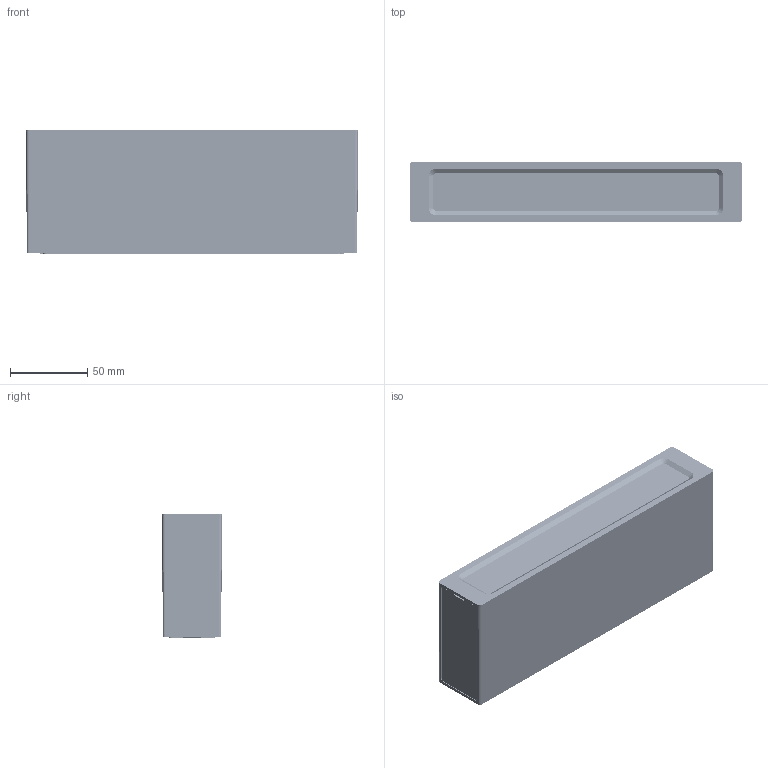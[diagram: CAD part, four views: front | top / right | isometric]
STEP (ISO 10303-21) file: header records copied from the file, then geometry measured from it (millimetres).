
FILE_DESCRIPTION(/* description */ (''),/* implementation_level */ '2;1');
FILE_NAME(/* name */ 'Darcy 8 Cells Assembly.stp',/* time_stamp */ '2026-02-19T10:53:27+11:00',/* author */ ('Mlight'),/* organization */ (''),/* preprocessor_version */ 'ST-DEVELOPER v20',/* originating_system */ 'Autodesk Inventor 2024',/* authorisation */ '');
FILE_SCHEMA (('AUTOMOTIVE_DESIGN { 1 0 10303 214 3 1 1 }'));
Products named in the file (20): Evelo X 12 Cell SM Darcy; Ledil Darcy PCB; Evelo X Plastic Internal Body Darcy; DARCY-4x1; Copy (1) of C19683_DARCY-SHD_004_MechanicalModel_001; Copy (1) of Mechanical-LENS; Copy (2) of Mechanical-LENS; Copy (3) of Mechanical-LENS; Copy (4) of Mechanical-LENS; Evelo X Aluminium End Cap; Evelo Modular SM Outer Body; Surface Mount Bracket; Evelo X End Cap Cover Darcy; Evelo X Heat Sink Toshine Revision; Evelo X Gasket; Magnet; AS 1427 - M4 x 10; Air Vent RSV-M12 1.5; Air Vent RSV-M12 1.5_1; Heyco Snap In Liquid Tight Bushing 4014
Assembly tree (41 placements, depth 3):
  Evelo X 12 Cell SM Darcy
    Ledil Darcy PCB
    Evelo X Plastic Internal Body Darcy
    DARCY-4x1  x2
      Copy (1) of C19683_DARCY-SHD_004_MechanicalModel_001
      Copy (1) of Mechanical-LENS
      Copy (2) of Mechanical-LENS
      Copy (3) of Mechanical-LENS
      Copy (4) of Mechanical-LENS
    Evelo X Aluminium End Cap  x2
    Evelo Modular SM Outer Body
    Surface Mount Bracket
    Evelo X End Cap Cover Darcy  x2
    Evelo X Heat Sink Toshine Revision
    Evelo X Gasket  x2
    AS 1427 - M4 x 10  x14
    Magnet  x4
    Air Vent RSV-M12 1.5_1  x2
    Air Vent RSV-M12 1.5  x2
    Heyco Snap In Liquid Tight Bushing 4014
Bounding box: 215.52 x 38.92 x 80 mm (x, y, z)
Volume: 325285.1 mm3; surface area: 275820 mm2
Topology: 44 solids, 44 shells, 5618 faces, 14459 edges, 8624 vertices
Faces by surface type: bspline 2378, plane 1049, cylinder 768, cone 741, torus 564, sphere 118
Full cylindrical faces by diameter (mm): 0.75 x2, 2.1 x2, 3.2 x4, 3.242 x6, 3.571 x14, 4 x15, 4.3 x2, 4.5 x18, 4.8 x4, 7 x14, 8 x1, 10 x8, 10.5 x6, 12.5 x1, 19.5 x1
Entity records: 158334 total; most frequent: CARTESIAN_POINT 92267, ORIENTED_EDGE 14772, DIRECTION 12264, EDGE_CURVE 7386, AXIS2_PLACEMENT_3D 5145, VERTEX_POINT 4509, EDGE_LOOP 3015, FACE_OUTER_BOUND 2900
